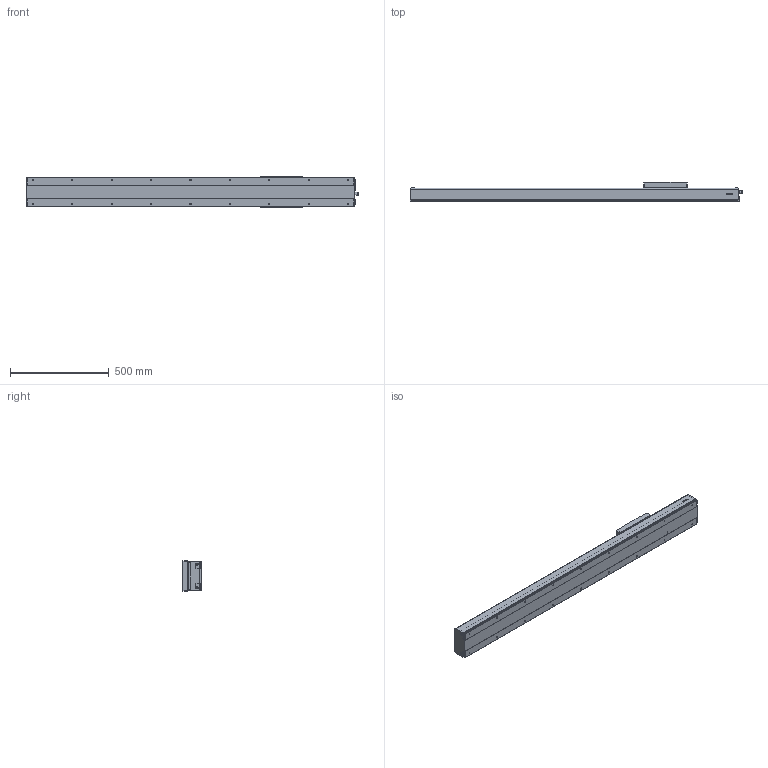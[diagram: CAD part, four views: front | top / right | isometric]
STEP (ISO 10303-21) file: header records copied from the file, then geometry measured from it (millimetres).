
FILE_DESCRIPTION(/* description */ (''),/* implementation_level */ '2;1');
FILE_NAME(/* name */ 'D:\混合母檔20191031\混和母檔\混和母檔\bin\Debug\Download\3D\KS150-10C-1150AFI\KS150-10C-1150AFI.stp',/* time_stamp */ '2019-11-04T15:53:27+08:00',/* author */ ('user'),/* organization */ (''),/* preprocessor_version */ 'ST-DEVELOPER v16.13',/* originating_system */ 'Autodesk Inventor 2018',/* authorisation */ '');
FILE_SCHEMA (('AUTOMOTIVE_DESIGN { 1 0 10303 214 3 1 1 }','AP242_MANAGED_MODEL_BASED_3D_ENGINEERING_MIM_LF { 1 0 10303 442 1 1 4 }'));
Length unit declared in the file: millimetre
Products named in the file (3): KS150-10C-1150AFI; KS150-FI; KS150-SL
Assembly tree (2 placements, depth 2):
  KS150-10C-1150AFI
    KS150-FI
    KS150-SL
Bounding box: 1685.05 x 100 x 152.4 mm (x, y, z)
Volume: 6757128.9 mm3; surface area: 1632079.2 mm2
Topology: 4 solids, 8 shells, 1249 faces, 3295 edges, 2136 vertices
Faces by surface type: plane 615, cone 232, cylinder 194, bspline 136, torus 68, sphere 4
Full cylindrical faces by diameter (mm): 3.242 x12, 3.571 x8, 4.134 x4, 4.5 x8, 4.509 x6, 4.917 x4, 5 x18, 5.5 x12, 6 x2, 6.647 x22, 8 x4, 8.4 x8, 9.3 x12, 10.437 x1, 12 x1, 14 x1, 15 x1, 15.538 x1, 23 x1, 46 x1, 50 x1
Entity records: 41128 total; most frequent: CARTESIAN_POINT 12744, ORIENTED_EDGE 5856, DIRECTION 5457, EDGE_CURVE 2928, VERTEX_POINT 2024, AXIS2_PLACEMENT_3D 1896, LINE 1665, VECTOR 1665
